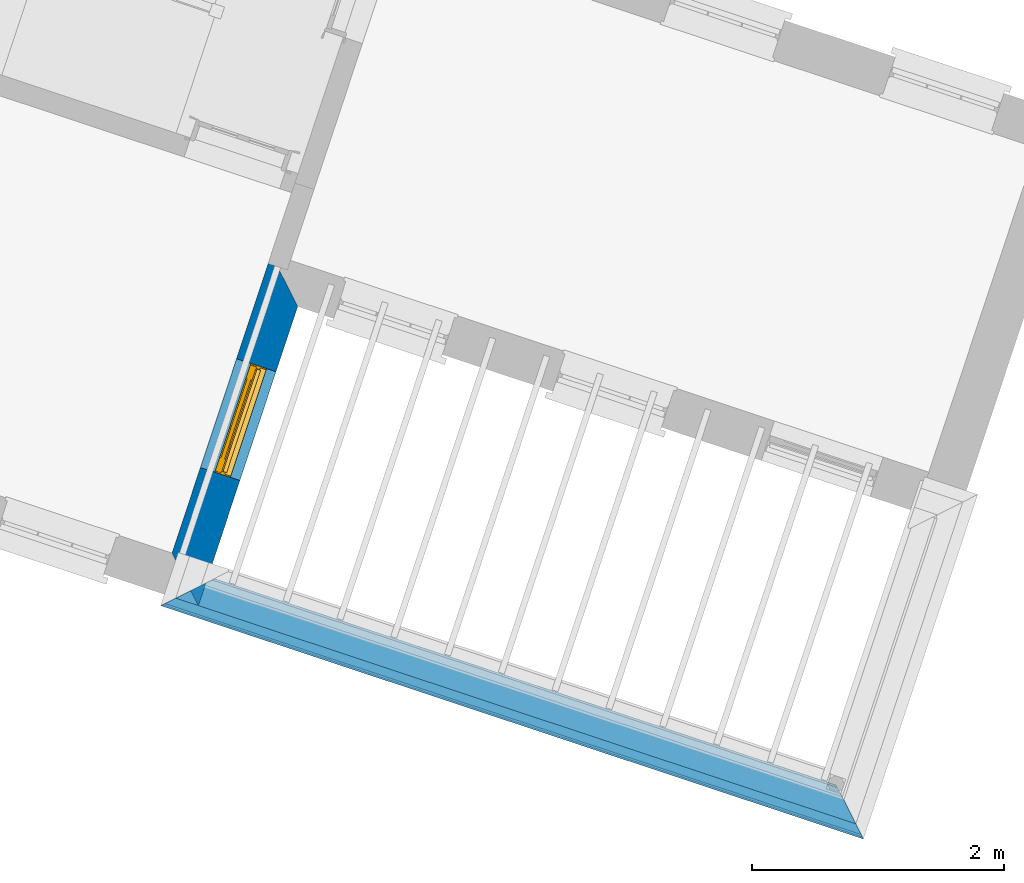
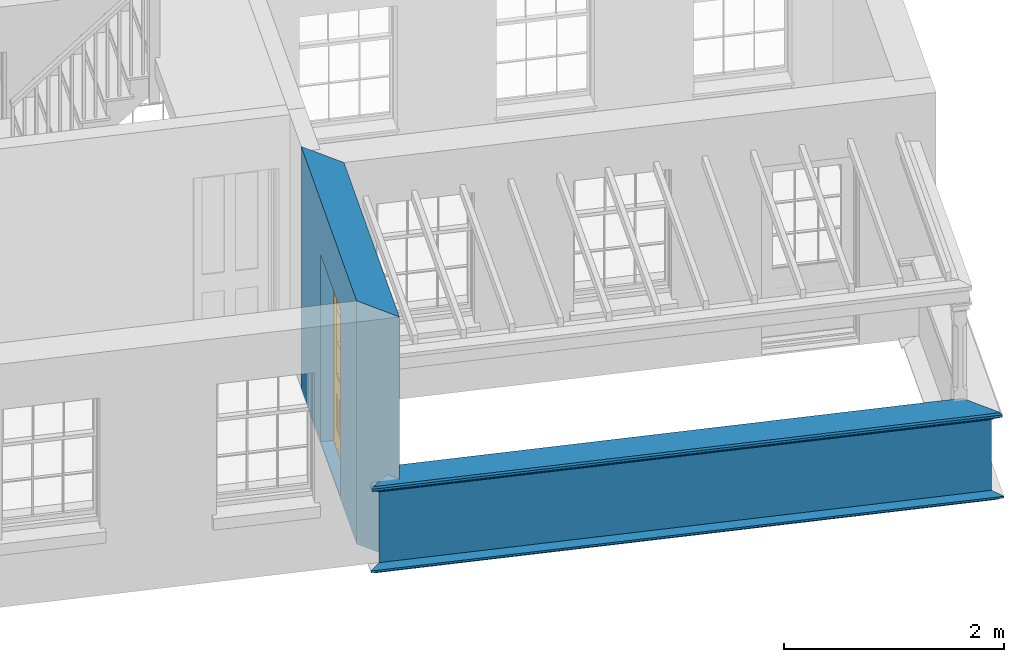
# One storey, part 2 of 6: 4 walls, 1 door, 1 opening.
"""IFC4 building model written with IfcOpenShell, lengths in metres."""

from ifc_helpers import new_model, si_unit, frame, origin, origin_with_axes, place, context, subcontext, project, spatial, polyline, outline, extrude, clip, halfspace, faceted_brep, source, transform, mapped, material, layer, layer_set, layer_usage, material_profile, profile_set, profile_usage, type_object, type_shapes, element, fill, save


model = new_model("IFC4")

# Units and contexts
model_context = context("Model", 3, world=origin_with_axes())
body_context = subcontext(model_context, "Body", "Model", "MODEL_VIEW")
ifc_project = project(units=[si_unit("PLANEANGLEUNIT", "RADIAN"), si_unit("MASSUNIT", "GRAM", prefix="KILO"), si_unit("FORCEUNIT", "NEWTON", prefix="KILO"), si_unit("LENGTHUNIT", "METRE"), si_unit("AREAUNIT", "SQUARE_METRE"), si_unit("VOLUMEUNIT", "CUBIC_METRE")], contexts=[model_context, model_context])

# Sites, building, storey
site_1_placement = place(None, origin_with_axes())
site_1 = spatial("IfcSite", under=ifc_project, at=site_1_placement, Name="Tamar")
site_2_placement = place(site_1_placement, origin_with_axes())
site_2 = spatial("IfcSite", under=site_1, at=site_2_placement, Name="Site plot-16", CompositionType="ELEMENT")
building_placement = place(None, origin_with_axes())
building = spatial("IfcBuilding", under=site_2, at=building_placement, Name="Building plot-16", CompositionType="ELEMENT")
storey_placement = place(None, frame((0.0, 0.0, 29.45), z_axis=(0.0, 0.0, 1.0), x_axis=(1.0, 0.0, 0.0)))
storey = spatial("IfcBuildingStorey", under=building, at=storey_placement, Name="plot-16 1", CompositionType="ELEMENT", Elevation=29.45)

# Wall, opening, door
ifc_material = material(Name="Masonry")
ifc_layer = layer(ifc_material, 0.33, ventilated=False)
ifc_layer_set = layer_set([ifc_layer], Name="exterior_0.08_0.25")
ifc_layer_usage = layer_usage(ifc_layer_set, "AXIS2", "POSITIVE", -0.25)
wall_type_1 = type_object("IfcWallType", Name="exterior_0.08_0.25", PredefinedType="SOLIDWALL", material=ifc_layer_set)
wall_1_placement = place(storey_placement, frame((256.317731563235, 293.45462049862, 0.0), z_axis=(0.0, 0.0, 1.0), x_axis=(0.315038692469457, 0.949078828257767, 0.0)))
wall_1 = element("IfcWall", 1, at=wall_1_placement, inside=storey, type_object=wall_type_1, material=ifc_layer_usage, Name="exterior", context=body_context, shape_type="SweptSolid", body=[
    extrude(outline(polyline([(0.0800000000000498, 0.0800000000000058), (-0.250000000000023, -0.249999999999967), (2.25166516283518, -0.250000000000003), (2.58166516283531, 0.079999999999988), (0.0800000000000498, 0.0800000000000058)])), origin_with_axes(), (0.0, 0.0, 1.0), 2.7),
])
opening_placement = place(wall_1_placement, frame((0.795832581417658, 0.0, 0.0199999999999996)))
opening = element("IfcOpeningElement", 2, at=opening_placement, cuts=wall_1, Name="My Opening", ObjectType="Opening", context=body_context, shape_type="SweptSolid", body=[
    extrude(outline(polyline([(0.0, -0.269999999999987), (0.910000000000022, -0.269999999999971), (0.90999999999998, 1.10000000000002), (-4.21884749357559e-14, 1.1), (0.0, -0.269999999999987)])), origin_with_axes(), (0.0, 0.0, 1.0), 2.08),
])
door_type = type_object("IfcDoorType", Name="door_panelled", OperationType="SINGLE_SWING_LEFT", PredefinedType="NOTDEFINED")
shared_shape = source(origin(), body_context, "Body", "Brep", [
    faceted_brep([(0.545, 0.195, 0.265), (0.745, 0.195, 0.265), (0.745, 0.2, 0.265), (0.545, 0.2, 0.265), (0.745, 0.2, 0.58), (0.545, 0.2, 0.58), (0.545, 0.195, 0.58), (0.515, 0.19, 0.235), (0.775, 0.19, 0.235), (0.745, 0.195, 0.58), (0.515, 0.19, 0.61), (0.515, 0.185, 0.235), (0.775, 0.185, 0.235), (0.775, 0.19, 0.61), (0.515, 0.185, 0.61), (0.785, 0.185, 0.225), (0.505, 0.185, 0.225), (0.775, 0.185, 0.61), (0.505, 0.185, 0.62), (0.785, 0.185, 0.62), (0.505, 0.18, 0.225), (0.785, 0.18, 0.225), (0.505, 0.18, 0.62), (0.785, 0.18, 0.62), (0.883, 0.18, 0.075), (0.898, 0.18, 0.075), (0.405, 0.18, 0.62), (0.405, 0.18, 0.225), (0.027, 0.18, 0.075), (0.785, 0.18, 0.82), (0.125, 0.18, 0.82), (0.405, 0.185, 0.62), (0.405, 0.185, 0.225), (0.898, 0.18, 2.068), (0.027, 0.17, 0.075), (0.883, 0.17, 0.075), (0.125, 0.18, 0.225), (0.012, 0.18, 0.075), (0.785, 0.19, 0.82), (0.125, 0.19, 0.82), (0.125, 0.18, 0.62), (0.125, 0.185, 0.62), (0.395, 0.185, 0.61), (0.395, 0.185, 0.235), (0.125, 0.185, 0.225), (0.785, 0.18, 1.895), (0.027, 0.14, 0.045), (0.883, 0.14, 0.045), (0.558333, 0.19, 0.83), (0.351667, 0.19, 0.83), (0.125, 0.18, 1.895), (0.125, 0.19, 1.895), (0.785, 0.19, 1.895), (0.012, 0.18, 2.068), (0.135, 0.185, 0.61), (0.395, 0.19, 0.61), (0.395, 0.19, 0.235), (0.135, 0.185, 0.235), (0.027, 0.14, 0.027), (0.883, 0.14, 0.027), (0.568333, 0.19, 0.83), (0.558333, 0.22, 0.83), (0.351667, 0.22, 0.83), (0.341667, 0.19, 0.83), (0.135, 0.19, 1.185), (0.135, 0.19, 1.53), (0.775, 0.19, 1.53), (0.775, 0.19, 1.185), (0.135, 0.19, 0.61), (0.365, 0.195, 0.58), (0.365, 0.195, 0.265), (0.135, 0.19, 0.235), (0.568333, 0.19, 1.175), (0.558333, 0.19, 1.175), (0.775, 0.19, 0.83), (0.558333, 0.22, 1.175), (0.785, 0.22, 0.82), (0.125, 0.22, 0.82), (0.351667, 0.22, 1.175), (0.351667, 0.19, 1.175), (0.341667, 0.19, 1.175), (0.135, 0.19, 0.83), (0.135, 0.19, 1.175), (0.135, 0.22, 1.185), (0.135, 0.22, 1.53), (0.135, 0.19, 1.54), (0.351667, 0.19, 1.885), (0.558333, 0.19, 1.885), (0.775, 0.22, 1.53), (0.775, 0.22, 1.185), (0.775, 0.19, 1.175), (0.775, 0.19, 1.54), (0.165, 0.195, 0.58), (0.365, 0.2, 0.58), (0.365, 0.2, 0.265), (0.165, 0.195, 0.265), (0.568333, 0.22, 0.83), (0.568333, 0.22, 1.175), (0.568333, 0.19, 1.185), (0.558333, 0.19, 1.185), (0.775, 0.22, 0.83), (0.785, 0.23, 0.82), (0.125, 0.23, 0.82), (0.341667, 0.22, 0.83), (0.341667, 0.22, 1.175), (0.351667, 0.19, 1.185), (0.341667, 0.19, 1.185), (0.135, 0.22, 0.83), (0.341667, 0.22, 1.185), (0.125, 0.22, 1.895), (0.341667, 0.22, 1.53), (0.341667, 0.19, 1.53), (0.135, 0.19, 1.885), (0.341667, 0.19, 1.54), (0.341667, 0.19, 1.885), (0.558333, 0.22, 1.885), (0.351667, 0.22, 1.885), (0.568333, 0.19, 1.885), (0.785, 0.22, 1.895), (0.568333, 0.22, 1.185), (0.568333, 0.19, 1.53), (0.568333, 0.22, 1.53), (0.568333, 0.19, 1.54), (0.775, 0.19, 1.885), (0.165, 0.2, 0.58), (0.165, 0.2, 0.265), (0.775, 0.22, 1.175), (0.558333, 0.19, 1.53), (0.351667, 0.22, 1.185), (0.558333, 0.22, 1.185), (0.505, 0.23, 0.62), (0.405, 0.23, 0.62), (0.125, 0.23, 1.895), (0.785, 0.23, 1.895), (0.351667, 0.19, 1.53), (0.135, 0.22, 1.175), (0.135, 0.22, 1.54), (0.341667, 0.22, 1.54), (0.135, 0.22, 1.885), (0.351667, 0.19, 1.54), (0.558333, 0.22, 1.54), (0.558333, 0.19, 1.54), (0.351667, 0.22, 1.54), (0.775, 0.22, 1.54), (0.568333, 0.22, 1.54), (0.775, 0.22, 1.885), (0.558333, 0.22, 1.53), (0.405, 0.23, 0.225), (0.505, 0.23, 0.225), (0.125, 0.23, 0.62), (0.785, 0.23, 0.62), (0.012, 0.23, 2.068), (0.898, 0.23, 2.068), (0.351667, 0.22, 1.53), (0.341667, 0.22, 1.885), (0.568333, 0.22, 1.885), (0.405, 0.225, 0.225), (0.405, 0.225, 0.62), (0.505, 0.225, 0.62), (0.505, 0.225, 0.225), (0.898, 0.23, 0.027), (0.012, 0.23, 0.027), (0.125, 0.225, 0.62), (0.785, 0.225, 0.62), (0.395, 0.225, 0.235), (0.395, 0.225, 0.61), (0.125, 0.23, 0.225), (0.125, 0.225, 0.225), (0.515, 0.225, 0.61), (0.515, 0.225, 0.235), (0.785, 0.23, 0.225), (0.785, 0.225, 0.225), (0.135, 0.225, 0.61), (0.775, 0.225, 0.61), (0.135, 0.225, 0.235), (0.395, 0.22, 0.235), (0.395, 0.22, 0.61), (0.515, 0.22, 0.61), (0.515, 0.22, 0.235), (0.775, 0.225, 0.235), (0.135, 0.22, 0.61), (0.775, 0.22, 0.61), (0.135, 0.22, 0.235), (0.365, 0.215, 0.265), (0.365, 0.215, 0.58), (0.545, 0.215, 0.58), (0.545, 0.215, 0.265), (0.775, 0.22, 0.235), (0.165, 0.215, 0.58), (0.745, 0.215, 0.58), (0.165, 0.215, 0.265), (0.365, 0.21, 0.58), (0.365, 0.21, 0.265), (0.545, 0.21, 0.58), (0.545, 0.21, 0.265), (0.745, 0.215, 0.265), (0.165, 0.21, 0.58), (0.745, 0.21, 0.58), (0.165, 0.21, 0.265), (0.745, 0.21, 0.265), (0.885, 0.178, 0.025), (0.025, 0.178, 0.025), (0.025, 0.15, 0.025), (0.885, 0.15, 0.025), (0.9, 0.23, 0.025), (0.01, 0.23, 0.025), (0.9, 0.178, 0.025), (0.91, 0.23, 0.0), (0.0, 0.23, 0.0), (0.01, 0.178, 0.025), (0.9, 0.178, 2.07), (0.9, 0.23, 2.07), (0.885, 0.178, 2.055), (0.91, 0.23, 2.08), (0.01, 0.23, 2.07), (0.0, 0.23, 2.08), (0.01, 0.178, 2.07), (0.025, 0.178, 2.055), (0.0, 0.1, 2.08), (0.91, 0.1, 2.08), (0.01, 0.1, 2.07), (0.9, 0.1, 2.07), (0.01, 0.15, 2.07), (0.9, 0.15, 2.07), (0.0, 0.1, 0.0), (0.91, 0.1, 0.0), (0.01, 0.1, 0.025), (0.9, 0.1, 0.025), (0.01, 0.15, 0.025), (0.025, 0.15, 2.055), (0.9, 0.15, 0.025), (0.885, 0.15, 2.055), (0.898, 0.18, 0.027), (0.012, 0.18, 0.027), (0.883, 0.18, 0.027), (0.027, 0.18, 0.027)], [[[0, 1, 2, 3]], [[2, 4, 5, 3]], [[0, 3, 5, 6]], [[1, 0, 7, 8]], [[9, 4, 2, 1]], [[9, 6, 5, 4]], [[0, 6, 10, 7]], [[8, 7, 11, 12]], [[8, 13, 9, 1]], [[13, 10, 6, 9]], [[7, 10, 14, 11]], [[15, 12, 11, 16]], [[12, 17, 13, 8]], [[17, 14, 10, 13]], [[18, 16, 11, 14]], [[15, 19, 17, 12]], [[15, 16, 20, 21]], [[14, 17, 19, 18]], [[16, 18, 22, 20]], [[21, 23, 19, 15]], [[24, 25, 21, 20]], [[23, 22, 18, 19]], [[20, 22, 26, 27]], [[23, 21, 25]], [[28, 24, 20, 27]], [[22, 23, 29]], [[29, 30, 26, 22]], [[27, 26, 31, 32]], [[23, 25, 33, 29]], [[34, 35, 24, 28]], [[28, 27, 36, 37]], [[38, 39, 30, 29]], [[26, 30, 40]], [[26, 40, 41, 31]], [[42, 43, 32, 31]], [[32, 44, 36, 27]], [[33, 45, 29]], [[46, 47, 35, 34]], [[36, 40, 37]], [[39, 38, 48, 49]], [[50, 30, 39, 51]], [[29, 45, 52, 38]], [[53, 37, 40, 30]], [[44, 41, 40, 36]], [[31, 41, 54, 42]], [[43, 42, 55, 56]], [[57, 44, 32, 43]], [[50, 45, 33, 53]], [[47, 46, 58, 59]], [[60, 48, 38]], [[49, 48, 61, 62]], [[49, 63, 39]], [[50, 53, 30]], [[51, 39, 64, 65]], [[45, 50, 51, 52]], [[66, 67, 38, 52]], [[57, 54, 41, 44]], [[42, 54, 68, 55]], [[56, 55, 69, 70]], [[56, 71, 57, 43]], [[60, 72, 73, 48]], [[60, 38, 74]], [[48, 73, 75, 61]], [[76, 77, 62, 61]], [[62, 78, 79, 49]], [[49, 79, 80, 63]], [[63, 81, 39]], [[82, 64, 39]], [[65, 64, 83, 84]], [[85, 51, 65]], [[52, 51, 86, 87]], [[88, 89, 67, 66]], [[90, 38, 67]], [[91, 66, 52]], [[71, 68, 54, 57]], [[55, 68, 92, 69]], [[69, 93, 94, 70]], [[70, 95, 71, 56]], [[96, 97, 72, 60]], [[73, 72, 98, 99]], [[74, 38, 90]], [[100, 96, 60, 74]], [[75, 73, 79, 78]], [[61, 75, 97, 96]], [[101, 102, 77, 76]], [[77, 103, 62]], [[96, 76, 61]], [[103, 104, 78, 62]], [[80, 79, 105, 106]], [[63, 80, 104, 103]], [[81, 63, 103, 107]], [[81, 82, 39]], [[106, 64, 82, 80]], [[106, 108, 83, 64]], [[84, 83, 77, 109]], [[110, 111, 65, 84]], [[112, 51, 85]], [[113, 85, 65, 111]], [[114, 86, 51]], [[115, 87, 86, 116]], [[117, 52, 87]], [[118, 76, 89, 88]], [[119, 98, 67, 89]], [[120, 121, 88, 66]], [[67, 98, 72, 90]], [[91, 122, 120, 66]], [[91, 52, 123]], [[95, 92, 68, 71]], [[69, 92, 124, 93]], [[94, 93, 124, 125]], [[94, 125, 95, 70]], [[72, 97, 126, 90]], [[127, 99, 98, 120]], [[99, 105, 79, 73]], [[74, 90, 126, 100]], [[96, 100, 76]], [[128, 129, 75, 78]], [[97, 75, 129, 119]], [[130, 131, 102, 101]], [[109, 77, 102, 132]], [[133, 101, 76, 118]], [[77, 107, 103]], [[78, 104, 108, 128]], [[111, 106, 105, 134]], [[104, 80, 82, 135]], [[107, 135, 82, 81]], [[110, 108, 106, 111]], [[104, 135, 83, 108]], [[83, 135, 77]], [[136, 84, 109]], [[110, 84, 136, 137]], [[114, 51, 112]], [[85, 136, 138, 112]], [[113, 137, 136, 85]], [[111, 134, 139, 113]], [[86, 114, 113, 139]], [[140, 141, 87, 115]], [[139, 142, 116, 86]], [[109, 118, 115, 116]], [[117, 123, 52]], [[117, 87, 141, 122]], [[126, 89, 76]], [[143, 118, 88]], [[120, 98, 119, 121]], [[119, 89, 126, 97]], [[144, 143, 88, 121]], [[144, 122, 91, 143]], [[127, 120, 122, 141]], [[143, 91, 123, 145]], [[124, 92, 95, 125]], [[146, 129, 99, 127]], [[99, 129, 128, 105]], [[100, 126, 76]], [[121, 119, 129, 146]], [[147, 131, 130, 148]], [[131, 149, 102]], [[130, 101, 150]], [[102, 151, 132]], [[118, 109, 132, 133]], [[101, 133, 152]], [[107, 77, 135]], [[153, 128, 108, 110]], [[134, 105, 128, 153]], [[109, 138, 136]], [[153, 110, 137, 142]], [[154, 114, 112, 138]], [[137, 113, 114, 154]], [[141, 139, 134, 127]], [[141, 140, 142, 139]], [[144, 140, 115, 155]], [[142, 137, 154, 116]], [[155, 115, 118]], [[116, 154, 109]], [[117, 155, 145, 123]], [[122, 144, 155, 117]], [[143, 145, 118]], [[121, 146, 140, 144]], [[146, 127, 134, 153]], [[156, 157, 131, 147]], [[148, 130, 158, 159]], [[148, 160, 161, 147]], [[157, 162, 149, 131]], [[161, 151, 102, 149]], [[101, 152, 160, 150]], [[163, 158, 130, 150]], [[151, 152, 133, 132]], [[154, 138, 109]], [[142, 140, 146, 153]], [[145, 155, 118]], [[157, 156, 164, 165]], [[147, 166, 167, 156]], [[168, 169, 159, 158]], [[170, 148, 159, 171]], [[148, 170, 160]], [[166, 147, 161]], [[172, 162, 157, 165]], [[166, 149, 162, 167]], [[166, 161, 149]], [[150, 160, 170]], [[163, 173, 168, 158]], [[171, 163, 150, 170]], [[174, 164, 156, 167]], [[175, 176, 165, 164]], [[169, 168, 177, 178]], [[171, 159, 169, 179]], [[167, 162, 172, 174]], [[176, 180, 172, 165]], [[179, 173, 163, 171]], [[181, 177, 168, 173]], [[164, 174, 182, 175]], [[183, 184, 176, 175]], [[178, 177, 185, 186]], [[179, 169, 178, 187]], [[174, 172, 180, 182]], [[184, 188, 180, 176]], [[187, 181, 173, 179]], [[189, 185, 177, 181]], [[175, 182, 190, 183]], [[191, 184, 183, 192]], [[185, 193, 194, 186]], [[187, 178, 186, 195]], [[182, 180, 188, 190]], [[191, 196, 188, 184]], [[195, 189, 181, 187]], [[197, 193, 185, 189]], [[183, 190, 198, 192]], [[198, 196, 191, 192]], [[194, 193, 197, 199]], [[195, 186, 194, 199]], [[188, 196, 198, 190]], [[197, 189, 195, 199]], [[200, 201, 202, 203]], [[201, 200, 204, 205]], [[206, 204, 200]], [[204, 207, 208, 205]], [[209, 201, 205]], [[210, 211, 204, 206]], [[206, 200, 212, 210]], [[211, 213, 207, 204]], [[214, 205, 208, 215]], [[216, 217, 201, 209]], [[205, 214, 216, 209]], [[216, 214, 211, 210]], [[210, 212, 217, 216]], [[214, 215, 213, 211]], [[218, 219, 213, 215]], [[219, 218, 220, 221]], [[221, 220, 222, 223]], [[215, 208, 224, 218]], [[225, 224, 208, 207]], [[224, 226, 220, 218]], [[224, 225, 227, 226]], [[219, 225, 207, 213]], [[228, 222, 220, 226]], [[219, 221, 227, 225]], [[226, 227, 203, 202]], [[202, 229, 222, 228]], [[228, 226, 202]], [[227, 221, 223, 230]], [[230, 203, 227]], [[217, 229, 202, 201]], [[231, 223, 222, 229]], [[230, 223, 231, 203]], [[231, 229, 217, 212]], [[212, 200, 203, 231]], [[33, 152, 151, 53]], [[25, 160, 152, 33]], [[161, 37, 53, 151]], [[232, 160, 25]], [[161, 233, 37]], [[160, 232, 234]], [[24, 234, 232, 25]], [[233, 161, 235]], [[37, 233, 235, 28]], [[161, 160, 234, 235]], [[35, 47, 234, 24]], [[28, 235, 46, 34]], [[58, 235, 234, 59]], [[59, 234, 47]], [[58, 46, 235]]]),
])
type_shapes(door_type, [shared_shape])
door_placement = place(storey_placement, frame((256.824700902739, 294.124867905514, 0.0199999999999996), z_axis=(0.0, 0.0, 1.0), x_axis=(0.286685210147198, 0.863661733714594, 0.0)))
door = element("IfcDoor", 3, at=door_placement, inside=storey, type_object=door_type, Name="bedroom outside door", OverallHeight=2.08, OverallWidth=0.91, context=body_context, shape_type="MappedRepresentation", body=[
    mapped(shared_shape, transform((0.0, 0.0, 0.0), scale=1.0)),
])
fill(opening, door)

# Walls
ifc_material_profile_1 = material_profile(None, outline(polyline([(0.25, 0.0), (0.25, 0.795), (0.09, 0.795), (0.09, 0.02), (-0.08, 0.02), (-0.08, 0.0), (0.25, 0.0)])))
ifc_profile_set_1 = profile_set([ifc_material_profile_1])
ifc_profile_usage_1 = profile_usage(ifc_profile_set_1)
wall_type_2 = type_object("IfcWallType", Name="parapet_0", PredefinedType="PARAPET", material=ifc_profile_set_1)
wall_2_placement = place(storey_placement, frame((262.485789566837, 291.407185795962, 0.0), z_axis=(-0.949078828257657, 0.315038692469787, 0.0), x_axis=(-0.315038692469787, -0.949078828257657, 0.0)))
element("IfcWall", 4, at=wall_2_placement, inside=storey, type_object=wall_type_2, material=ifc_profile_usage_1, Name="parapet_0", context=body_context, shape_type="Clipping", body=[
    clip(clip(extrude(outline(polyline([(0.25, 0.0), (0.25, 0.795), (0.09, 0.795), (0.09, 0.02), (-0.08, 0.02), (-0.08, 0.0), (0.25, 0.0)])), origin_with_axes(), (0.0, 0.0, 1.0), 7.1889944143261), halfspace(frame((0.0, 0.0, 6.1889944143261), z_axis=(0.707106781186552, 0.0, -0.707106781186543), x_axis=(0.0, 1.0, 0.0)), True)), halfspace(frame((0.0, 0.0, 1.0), z_axis=(-0.707106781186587, 0.0, -0.707106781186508), x_axis=(0.0, 1.0, 0.0)), False)),
])
ifc_material_profile_2 = material_profile(None, outline(polyline([(0.265, 0.795), (0.268, 0.807), (0.274, 0.816), (0.283, 0.822), (0.295, 0.825), (0.295, 0.84), (0.305, 0.84), (0.317, 0.842), (0.326, 0.849), (0.333, 0.858), (0.335, 0.87), (0.333, 0.882), (0.326, 0.891), (0.317, 0.898), (0.305, 0.9), (0.035, 0.9), (0.023, 0.898), (0.014, 0.891), (0.007, 0.882), (0.005, 0.87), (0.007, 0.858), (0.014, 0.849), (0.023, 0.842), (0.035, 0.84), (0.045, 0.84), (0.045, 0.825), (0.057, 0.822), (0.066, 0.816), (0.072, 0.807), (0.075, 0.795), (0.265, 0.795)])))
ifc_profile_set_2 = profile_set([ifc_material_profile_2])
ifc_profile_usage_2 = profile_usage(ifc_profile_set_2)
wall_type_3 = type_object("IfcWallType", Name="parapet_1", PredefinedType="PARAPET", material=ifc_profile_set_2)
wall_3_placement = place(storey_placement, frame((262.485789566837, 291.407185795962, 0.0), z_axis=(-0.949078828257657, 0.315038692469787, 0.0), x_axis=(-0.315038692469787, -0.949078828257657, 0.0)))
element("IfcWall", 5, at=wall_3_placement, inside=storey, type_object=wall_type_3, material=ifc_profile_usage_2, Name="parapet_1", context=body_context, shape_type="Clipping", body=[
    clip(clip(extrude(outline(polyline([(0.265, 0.795), (0.268, 0.807), (0.274, 0.816), (0.283, 0.822), (0.295, 0.825), (0.295, 0.84), (0.305, 0.84), (0.317, 0.842), (0.326, 0.849), (0.333, 0.858), (0.335, 0.87), (0.333, 0.882), (0.326, 0.891), (0.317, 0.898), (0.305, 0.9), (0.035, 0.9), (0.023, 0.898), (0.014, 0.891), (0.007, 0.882), (0.005, 0.87), (0.007, 0.858), (0.014, 0.849), (0.023, 0.842), (0.035, 0.84), (0.045, 0.84), (0.045, 0.825), (0.057, 0.822), (0.066, 0.816), (0.072, 0.807), (0.075, 0.795), (0.265, 0.795)])), origin_with_axes(), (0.0, 0.0, 1.0), 7.1889944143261), halfspace(frame((0.0, 0.0, 6.1889944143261), z_axis=(0.707106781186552, 0.0, -0.707106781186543), x_axis=(0.0, 1.0, 0.0)), True)), halfspace(frame((0.0, 0.0, 1.0), z_axis=(-0.707106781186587, 0.0, -0.707106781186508), x_axis=(0.0, 1.0, 0.0)), False)),
])
ifc_material_profile_3 = material_profile(None, outline(polyline([(0.25, -0.1), (0.265, -0.1), (0.265, -0.085), (0.278, -0.084), (0.289, -0.081), (0.301, -0.074), (0.309, -0.065), (0.315, -0.055), (0.324, -0.044), (0.334, -0.038), (0.345, -0.035), (0.345, -0.015), (0.25, 0.0), (0.25, -0.1)])))
ifc_profile_set_3 = profile_set([ifc_material_profile_3])
ifc_profile_usage_3 = profile_usage(ifc_profile_set_3)
wall_type_4 = type_object("IfcWallType", Name="parapet_2", PredefinedType="PARAPET", material=ifc_profile_set_3)
wall_4_placement = place(storey_placement, frame((262.485789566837, 291.407185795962, 0.0), z_axis=(-0.949078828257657, 0.315038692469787, 0.0), x_axis=(-0.315038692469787, -0.949078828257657, 0.0)))
element("IfcWall", 6, at=wall_4_placement, inside=storey, type_object=wall_type_4, material=ifc_profile_usage_3, Name="parapet_2", context=body_context, shape_type="Clipping", body=[
    clip(clip(extrude(outline(polyline([(0.25, -0.1), (0.265, -0.1), (0.265, -0.085), (0.278, -0.084), (0.289, -0.081), (0.301, -0.074), (0.309, -0.065), (0.315, -0.055), (0.324, -0.044), (0.334, -0.038), (0.345, -0.035), (0.345, -0.015), (0.25, 0.0), (0.25, -0.1)])), origin_with_axes(), (0.0, 0.0, 1.0), 7.1889944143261), halfspace(frame((0.0, 0.0, 6.1889944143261), z_axis=(0.707106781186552, 0.0, -0.707106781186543), x_axis=(0.0, 1.0, 0.0)), True)), halfspace(frame((0.0, 0.0, 1.0), z_axis=(-0.707106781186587, 0.0, -0.707106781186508), x_axis=(0.0, 1.0, 0.0)), False)),
])

save(model, "model.ifc")
